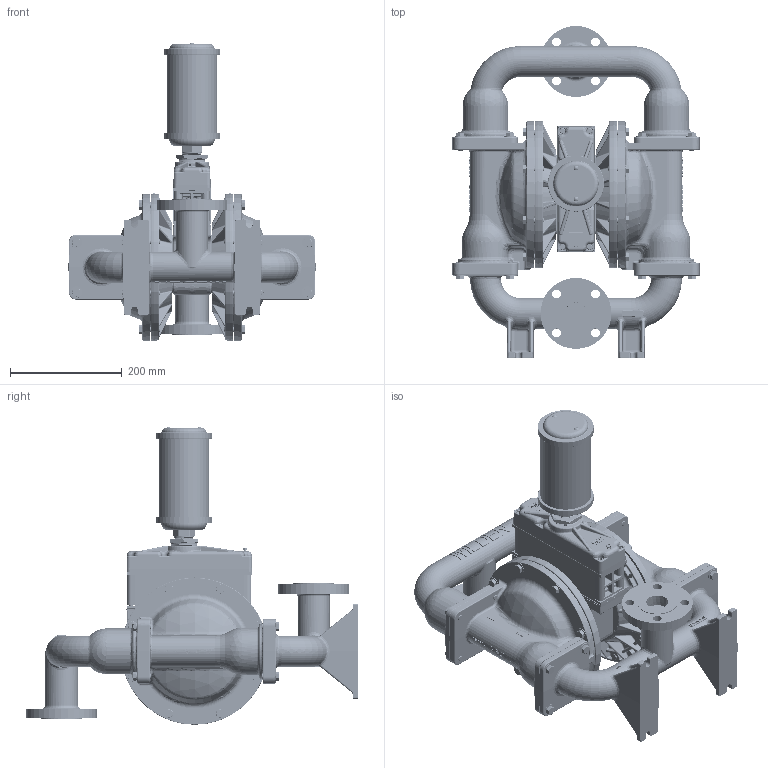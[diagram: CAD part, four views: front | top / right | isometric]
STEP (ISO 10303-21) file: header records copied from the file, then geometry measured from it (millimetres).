
FILE_DESCRIPTION (( 'STEP AP203' ), '1' );
FILE_NAME ('PS430_ALUM_TOP_ANSI S.STEP', '2022-06-07T12:12:21', ( '' ), ( '' ), 'SwSTEP 2.0', 'SolidWorks 2019', '' );
FILE_SCHEMA (( 'CONFIG_CONTROL_DESIGN' ));
Length unit declared in the file: inch
Products named in the file (1): PS430_ALUM_TOP_ANSI S
Bounding box: 442.46 x 594.39 x 533.51 mm (x, y, z)
Volume: 16705852.1 mm3; surface area: 1228251.2 mm2
Topology: 1 solids, 1 shells, 12697 faces, 32289 edges, 20027 vertices
Faces by surface type: plane 6560, cylinder 2197, bspline 1554, torus 1094, cone 902, sphere 390
Entity records: 557105 total; most frequent: CARTESIAN_POINT 272133, ORIENTED_EDGE 64374, DIRECTION 52096, EDGE_CURVE 32187, VERTEX_POINT 20009, AXIS2_PLACEMENT_3D 17473, VECTOR 17150, LINE 17150
